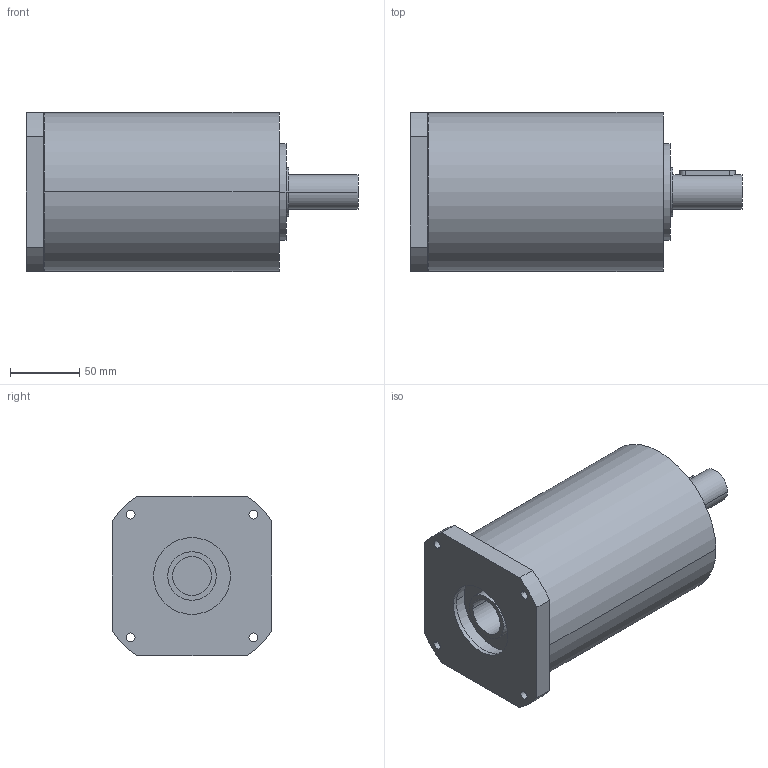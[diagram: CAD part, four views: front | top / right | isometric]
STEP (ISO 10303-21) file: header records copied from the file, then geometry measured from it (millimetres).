
FILE_DESCRIPTION(('CoCreate Modeling STEP Export'),'2;1');
FILE_NAME('GPR125_ig-9-12-16-20-28-35_25_B14_28_P01.stp','2014-08-26T14:11:32',(''),(''),'CoCreate Modeling STEP processor for AP214 (Solid Model)','CoCreate Modeling 16.00C 25-Feb-2009 (C) Parametric Technology GmbH','');
FILE_SCHEMA(('AUTOMOTIVE_DESIGN { 1 0 10303 214 1 1 1 1 }'));
Length unit declared in the file: millimetre
Products named in the file (2): GPR125_ig-9-12-16-20-28-35_25_B14_28_P01
Assembly tree (1 placements, depth 2):
  GPR125_ig-9-12-16-20-28-35_25_B14_28_P01
    GPR125_ig-9-12-16-20-28-35_25_B14_28_P01
Bounding box: 240 x 115 x 115 mm (x, y, z)
Volume: 1905726.1 mm3; surface area: 110627.8 mm2
Topology: 1 solids, 1 shells, 77 faces, 211 edges, 151 vertices
Faces by surface type: cylinder 48, plane 25, cone 4
Entity records: 2148 total; most frequent: ORIENTED_EDGE 418, CARTESIAN_POINT 398, DIRECTION 288, EDGE_CURVE 209, VERTEX_POINT 151, AXIS2_PLACEMENT_3D 109, EDGE_LOOP 102, FACE_OUTER_BOUND 77
